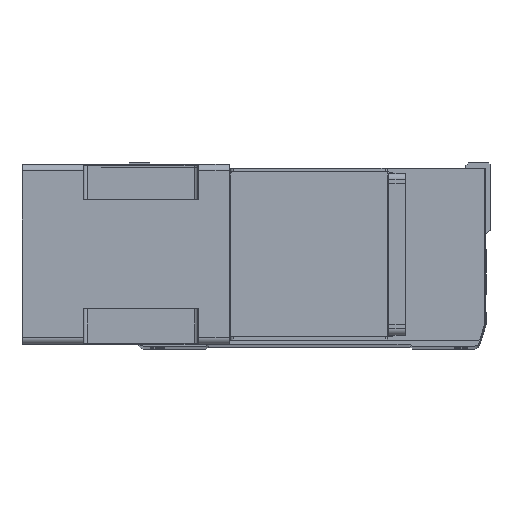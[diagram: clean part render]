
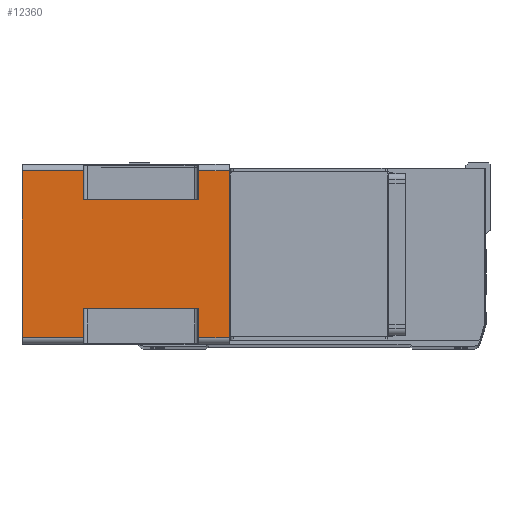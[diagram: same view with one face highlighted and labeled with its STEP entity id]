
A CAD part, top view. The second image highlights one B-rep face of the part: STEP entity #12360.
In plain terms, the highlighted planar face has unit normal (0, 0, 1) as drawn and (-1, 0, 0) by its records, which use the part's own axes.
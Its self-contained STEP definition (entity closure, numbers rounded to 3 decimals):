
#543 = VECTOR ( 'NONE', #4841, 1000. ) ;
#1051 = CARTESIAN_POINT ( 'NONE',  ( -71., 43., -164. ) ) ;
#1099 = VERTEX_POINT ( 'NONE', #26549 ) ;
#1130 = CARTESIAN_POINT ( 'NONE',  ( -71., 66., -164. ) ) ;
#1354 = VERTEX_POINT ( 'NONE', #37992 ) ;
#1422 = EDGE_CURVE ( 'NONE', #22549, #31122, #28014, .T. ) ;
#2719 = VECTOR ( 'NONE', #20117, 1000. ) ;
#2858 = VECTOR ( 'NONE', #25006, 1000. ) ;
#2956 = DIRECTION ( 'NONE',  ( 0., -1., 0. ) ) ;
#3385 = CARTESIAN_POINT ( 'NONE',  ( -71., 43., -24.5 ) ) ;
#3469 = LINE ( 'NONE', #25641, #10865 ) ;
#4419 = LINE ( 'NONE', #1051, #2858 ) ;
#4783 = DIRECTION ( 'NONE',  ( 0., 0., 1. ) ) ;
#4794 = LINE ( 'NONE', #1130, #31364 ) ;
#4841 = DIRECTION ( 'NONE',  ( 0., -1., 0. ) ) ;
#4904 = VECTOR ( 'NONE', #10429, 1000. ) ;
#6417 = CARTESIAN_POINT ( 'NONE',  ( -71., -66., 0. ) ) ;
#9304 = EDGE_CURVE ( 'NONE', #43797, #32055, #37618, .T. ) ;
#9543 = VERTEX_POINT ( 'NONE', #14314 ) ;
#9706 = CARTESIAN_POINT ( 'NONE',  ( -71., -66., -164. ) ) ;
#9918 = LINE ( 'NONE', #20648, #15250 ) ;
#10096 = EDGE_CURVE ( 'NONE', #22549, #9543, #3469, .T. ) ;
#10146 = CARTESIAN_POINT ( 'NONE',  ( -71., -66., -164. ) ) ;
#10429 = DIRECTION ( 'NONE',  ( 0., -1., 0. ) ) ;
#10865 = VECTOR ( 'NONE', #35177, 1000. ) ;
#11121 = ORIENTED_EDGE ( 'NONE', *, *, #12423, .T. ) ;
#11492 = CARTESIAN_POINT ( 'NONE',  ( -71., 43., -24.5 ) ) ;
#12360 = ADVANCED_FACE ( 'NONE', ( #13233 ), #13391, .T. ) ;
#12385 = EDGE_CURVE ( 'NONE', #22742, #1099, #41997, .T. ) ;
#12398 = LINE ( 'NONE', #35185, #38993 ) ;
#12423 = EDGE_CURVE ( 'NONE', #32715, #31122, #27073, .T. ) ;
#13142 = CARTESIAN_POINT ( 'NONE',  ( -71., 66., -164. ) ) ;
#13233 = FACE_OUTER_BOUND ( 'NONE', #40819, .T. ) ;
#13391 = PLANE ( 'NONE',  #34931 ) ;
#14314 = CARTESIAN_POINT ( 'NONE',  ( -71., -66., -24.5 ) ) ;
#14728 = VECTOR ( 'NONE', #17350, 1000. ) ;
#15250 = VECTOR ( 'NONE', #24047, 1000. ) ;
#15611 = ORIENTED_EDGE ( 'NONE', *, *, #1422, .F. ) ;
#16189 = LINE ( 'NONE', #18474, #40645 ) ;
#16758 = CARTESIAN_POINT ( 'NONE',  ( -71., 66., 0. ) ) ;
#17350 = DIRECTION ( 'NONE',  ( 0., 0., -1. ) ) ;
#18124 = ORIENTED_EDGE ( 'NONE', *, *, #10096, .T. ) ;
#18474 = CARTESIAN_POINT ( 'NONE',  ( -71., -66., -115.5 ) ) ;
#18509 = LINE ( 'NONE', #11492, #543 ) ;
#20117 = DIRECTION ( 'NONE',  ( 0., -1., 0. ) ) ;
#20648 = CARTESIAN_POINT ( 'NONE',  ( -71., -66., -164. ) ) ;
#21960 = ORIENTED_EDGE ( 'NONE', *, *, #43794, .F. ) ;
#22008 = CARTESIAN_POINT ( 'NONE',  ( -71., -66., -115.5 ) ) ;
#22549 = VERTEX_POINT ( 'NONE', #40738 ) ;
#22742 = VERTEX_POINT ( 'NONE', #43424 ) ;
#22784 = ORIENTED_EDGE ( 'NONE', *, *, #9304, .F. ) ;
#23123 = EDGE_CURVE ( 'NONE', #9543, #1354, #12398, .T. ) ;
#23144 = ORIENTED_EDGE ( 'NONE', *, *, #26885, .F. ) ;
#23827 = DIRECTION ( 'NONE',  ( 0., 1., 0. ) ) ;
#24042 = CARTESIAN_POINT ( 'NONE',  ( -71., 43., -115.5 ) ) ;
#24047 = DIRECTION ( 'NONE',  ( 0., 0., 1. ) ) ;
#24114 = ORIENTED_EDGE ( 'NONE', *, *, #23123, .T. ) ;
#25006 = DIRECTION ( 'NONE',  ( 0., 0., 1. ) ) ;
#25641 = CARTESIAN_POINT ( 'NONE',  ( -71., -66., -24.5 ) ) ;
#25996 = VECTOR ( 'NONE', #23827, 1000. ) ;
#26549 = CARTESIAN_POINT ( 'NONE',  ( -71., -66., -164. ) ) ;
#26885 = EDGE_CURVE ( 'NONE', #22742, #32194, #4794, .T. ) ;
#27073 = LINE ( 'NONE', #37355, #25996 ) ;
#28014 = LINE ( 'NONE', #37565, #14728 ) ;
#28252 = VERTEX_POINT ( 'NONE', #24042 ) ;
#28584 = CARTESIAN_POINT ( 'NONE',  ( -71., 66., -115.5 ) ) ;
#29059 = EDGE_CURVE ( 'NONE', #28252, #32194, #16189, .T. ) ;
#30364 = DIRECTION ( 'NONE',  ( -1., 0., 0. ) ) ;
#30382 = LINE ( 'NONE', #6417, #4904 ) ;
#30905 = ORIENTED_EDGE ( 'NONE', *, *, #12385, .T. ) ;
#31122 = VERTEX_POINT ( 'NONE', #43935 ) ;
#31294 = EDGE_CURVE ( 'NONE', #43797, #33362, #18509, .T. ) ;
#31356 = EDGE_CURVE ( 'NONE', #28252, #33362, #4419, .T. ) ;
#31364 = VECTOR ( 'NONE', #4783, 1000. ) ;
#32055 = VERTEX_POINT ( 'NONE', #16758 ) ;
#32194 = VERTEX_POINT ( 'NONE', #28584 ) ;
#32320 = ORIENTED_EDGE ( 'NONE', *, *, #31356, .F. ) ;
#32576 = DIRECTION ( 'NONE',  ( 0., 1., 0. ) ) ;
#32715 = VERTEX_POINT ( 'NONE', #22008 ) ;
#33362 = VERTEX_POINT ( 'NONE', #3385 ) ;
#34366 = VECTOR ( 'NONE', #40072, 1000. ) ;
#34898 = DIRECTION ( 'NONE',  ( 0., 0., 1. ) ) ;
#34909 = ORIENTED_EDGE ( 'NONE', *, *, #31294, .T. ) ;
#34931 = AXIS2_PLACEMENT_3D ( 'NONE', #10146, #30364, #2956 ) ;
#35177 = DIRECTION ( 'NONE',  ( 0., -1., 0. ) ) ;
#35185 = CARTESIAN_POINT ( 'NONE',  ( -71., -66., -164. ) ) ;
#35238 = ORIENTED_EDGE ( 'NONE', *, *, #29059, .T. ) ;
#37355 = CARTESIAN_POINT ( 'NONE',  ( -71., -43., -115.5 ) ) ;
#37565 = CARTESIAN_POINT ( 'NONE',  ( -71., -43., -164. ) ) ;
#37618 = LINE ( 'NONE', #13142, #34366 ) ;
#37992 = CARTESIAN_POINT ( 'NONE',  ( -71., -66., 0. ) ) ;
#38993 = VECTOR ( 'NONE', #34898, 1000. ) ;
#39588 = CARTESIAN_POINT ( 'NONE',  ( -71., 66., -24.5 ) ) ;
#40072 = DIRECTION ( 'NONE',  ( 0., 0., 1. ) ) ;
#40645 = VECTOR ( 'NONE', #32576, 1000. ) ;
#40738 = CARTESIAN_POINT ( 'NONE',  ( -71., -43., -24.5 ) ) ;
#40819 = EDGE_LOOP ( 'NONE', ( #41801, #11121, #15611, #18124, #24114, #21960, #22784, #34909, #32320, #35238, #23144, #30905 ) ) ;
#41801 = ORIENTED_EDGE ( 'NONE', *, *, #42937, .T. ) ;
#41997 = LINE ( 'NONE', #9706, #2719 ) ;
#42937 = EDGE_CURVE ( 'NONE', #1099, #32715, #9918, .T. ) ;
#43424 = CARTESIAN_POINT ( 'NONE',  ( -71., 66., -164. ) ) ;
#43794 = EDGE_CURVE ( 'NONE', #32055, #1354, #30382, .T. ) ;
#43797 = VERTEX_POINT ( 'NONE', #39588 ) ;
#43935 = CARTESIAN_POINT ( 'NONE',  ( -71., -43., -115.5 ) ) ;
